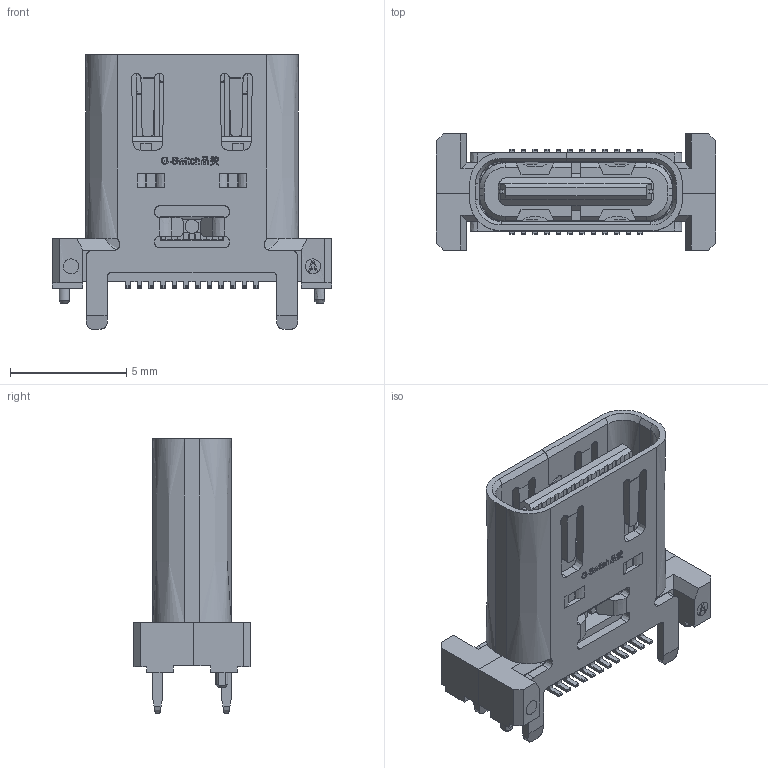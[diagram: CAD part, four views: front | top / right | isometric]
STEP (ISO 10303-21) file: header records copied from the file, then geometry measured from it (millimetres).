
FILE_DESCRIPTION (( 'STEP AP203' ), '1' );
FILE_NAME ('GT-USB-9053A01.STEP', '2025-05-15T06:55:25', ( '' ), ( '' ), 'SwSTEP 2.0', 'SolidWorks 2023', '' );
FILE_SCHEMA (( 'CONFIG_CONTROL_DESIGN' ));
Length unit declared in the file: millimetre
Products named in the file (1): GT-USB-9053A01
Bounding box: 12 x 5 x 11.8 mm (x, y, z)
Surface area: 1430.7 mm2 (no closed solid volume)
Topology: 0 solids, 665 shells, 4316 faces, 15542 edges, 11922 vertices
Faces by surface type: bspline 4131, plane 185
Entity records: 167991 total; most frequent: CARTESIAN_POINT 81948, ORIENTED_EDGE 25393, EDGE_CURVE 15542, B_SPLINE_CURVE_WITH_KNOTS 14695, VERTEX_POINT 11922, EDGE_LOOP 4536, FACE_OUTER_BOUND 4316, ADVANCED_FACE 4316
